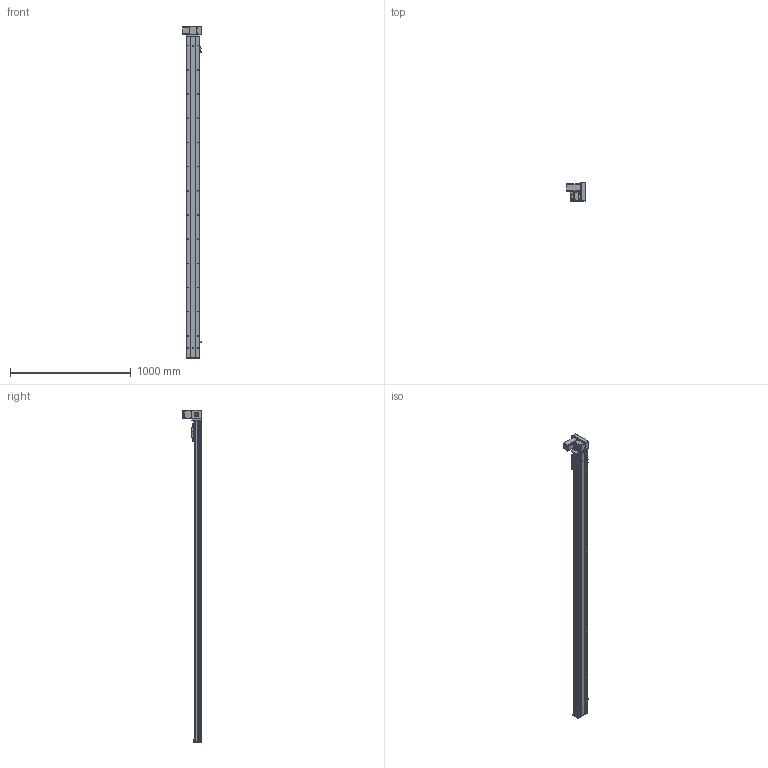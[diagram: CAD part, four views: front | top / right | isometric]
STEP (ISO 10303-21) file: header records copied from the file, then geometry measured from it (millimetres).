
FILE_DESCRIPTION (( 'STEP AP203' ), '1' );
FILE_NAME ('Y10CB-D90-S2400-UR-P400W.STEP', '2020-02-16T04:12:35', ( '微软用户' ), ( '微软中国' ), 'SwSTEP 2.0', 'SolidWorks 2017', '' );
FILE_SCHEMA (( 'CONFIG_CONTROL_DESIGN' ));
Length unit declared in the file: millimetre
Products named in the file (18): Y10B-耜蚾蟀諉啣----; 10CB-詩湍-; 00B-俋欶BM--; Y10CB- 掛极耜裔啣-毀---; 0CB-雄赽釱---; Y10CB-D90-S2400-UR-P400W; Y10C---詩湍揤啣; 0Cb-俋欶---; 10CB9-掛极; Y10B-々湍喘謫眊楊擘啣--; 10CB-耜裔; 0B-萇儂楊擘啣; Y135C-陔俋离換覜結え-; san松下电机400不带刹车----; Y100-135俋离換覜ん--; 0B-源倛裔啣; Y10B--々湍喘謫眊--666; 0B-埴倛裔啣
Assembly tree (21 placements, depth 2):
  Y10CB-D90-S2400-UR-P400W
    0CB-雄赽釱---
    0Cb-俋欶---
    Y10B-々湍喘謫眊楊擘啣--
    0B-萇儂楊擘啣
    san松下电机400不带刹车----
    0B-源倛裔啣
    0B-埴倛裔啣
    10CB-詩湍-
    Y10CB- 掛极耜裔啣-毀---  x2
    Y10C---詩湍揤啣  x2
    10CB9-掛极
    10CB-耜裔
    Y135C-陔俋离換覜結え-
    Y100-135俋离換覜ん--  x3
    Y10B--々湍喘謫眊--666
    Y10B-耜蚾蟀諉啣----
    00B-俋欶BM--
Bounding box: 157 x 155.5 x 2746 mm (x, y, z)
Volume: 5578838.2 mm3; surface area: 2644097.9 mm2
Topology: 21 solids, 21 shells, 1074 faces, 2923 edges, 1898 vertices
Faces by surface type: cylinder 559, plane 491, cone 24
Entity records: 34412 total; most frequent: CARTESIAN_POINT 6505, DIRECTION 5474, ORIENTED_EDGE 5316, EDGE_CURVE 2658, AXIS2_PLACEMENT_3D 1957, VERTEX_POINT 1724, VECTOR 1560, LINE 1560
